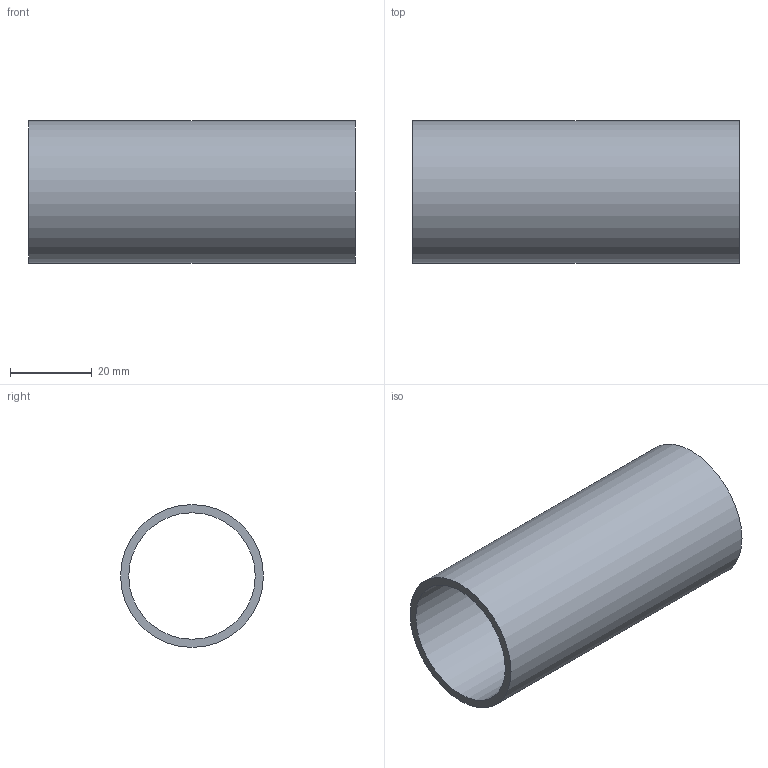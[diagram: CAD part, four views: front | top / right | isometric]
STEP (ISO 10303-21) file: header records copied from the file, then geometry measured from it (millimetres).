
FILE_DESCRIPTION((''),'2;1');
FILE_NAME('S:\Användarkataloger\AndreasA\Mina Inventor filer\Räcken\STEP\plunsch_42,4x2.stp','2010-09-07T13:44:04',('AndreasA'),(''),'Autodesk Inventor 2011','Autodesk Inventor 2011','');
FILE_SCHEMA(('AUTOMOTIVE_DESIGN { 1 0 10303 214 1 1 1 1 }'));
Length unit declared in the file: millimetre
Products named in the file (1): plunsch_42,4x2
Bounding box: 80 x 35 x 35 mm (x, y, z)
Volume: 16587.6 mm3; surface area: 17002.3 mm2
Topology: 1 solids, 1 shells, 4 faces, 6 edges, 4 vertices
Faces by surface type: cylinder 2, plane 2
Full cylindrical faces by diameter (mm): 31 x1, 35 x1
Entity records: 114 total; most frequent: DIRECTION 18, CARTESIAN_POINT 13, AXIS2_PLACEMENT_3D 9, ORIENTED_EDGE 8, EDGE_LOOP 8, VERTEX_POINT 4, CIRCLE 4, EDGE_CURVE 4
